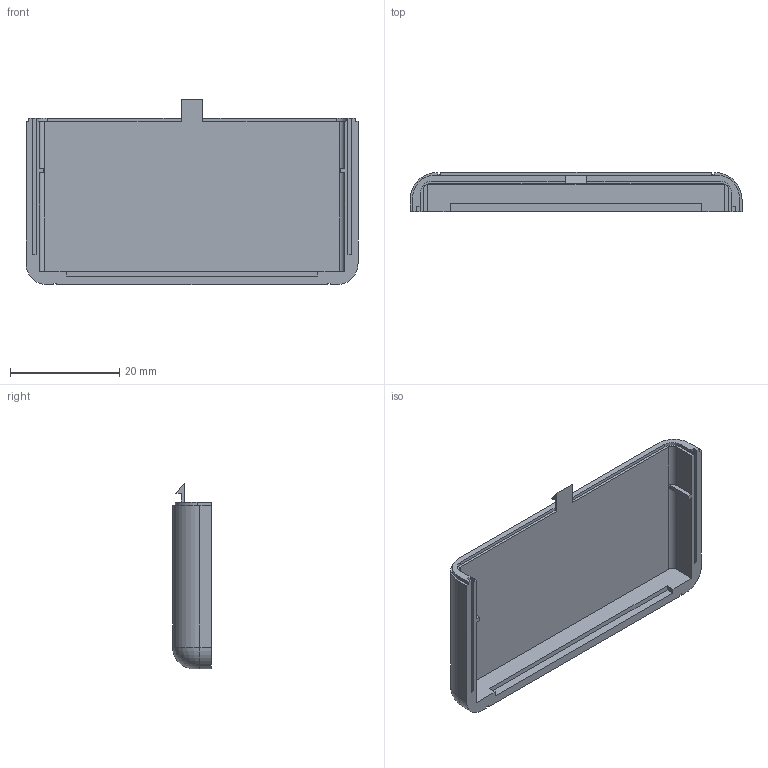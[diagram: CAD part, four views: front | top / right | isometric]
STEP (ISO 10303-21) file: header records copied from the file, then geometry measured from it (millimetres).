
FILE_DESCRIPTION (( 'STEP AP214' ), '1' );
FILE_NAME ('Tapa Trasera PP51.STEP', '2018-07-09T16:20:54', ( 'aaa' ), ( '' ), 'SwSTEP 2.0', 'SolidWorks 2013', '' );
FILE_SCHEMA (( 'AUTOMOTIVE_DESIGN' ));
Length unit declared in the file: millimetre
Products named in the file (1): Tapa Trasera PP51
Bounding box: 60.7 x 7.1 x 34 mm (x, y, z)
Volume: 4657 mm3; surface area: 5157 mm2
Topology: 1 solids, 1 shells, 74 faces, 210 edges, 138 vertices
Faces by surface type: plane 57, cylinder 15, torus 2
Entity records: 2416 total; most frequent: CARTESIAN_POINT 423, ORIENTED_EDGE 420, DIRECTION 396, EDGE_CURVE 210, VECTOR 174, LINE 174, VERTEX_POINT 138, AXIS2_PLACEMENT_3D 111
